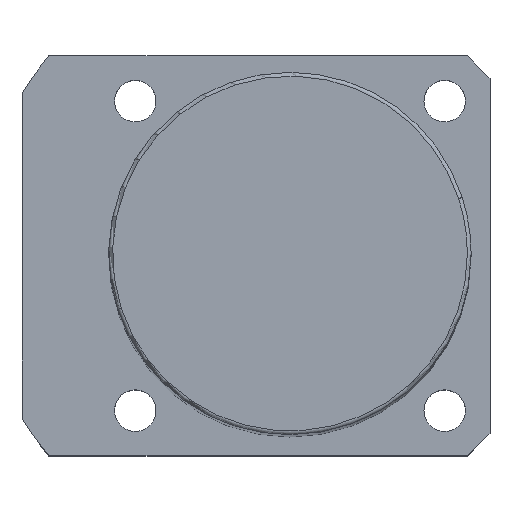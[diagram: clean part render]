
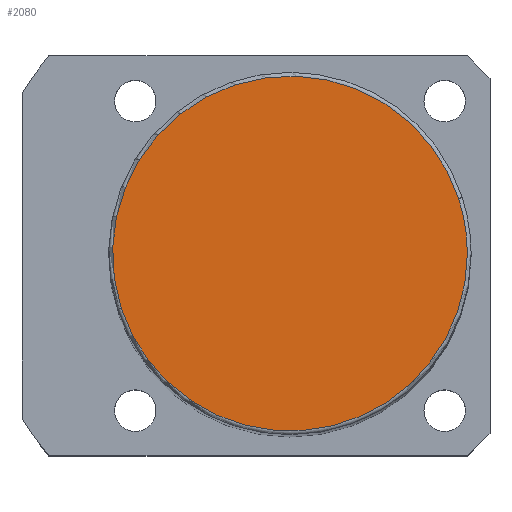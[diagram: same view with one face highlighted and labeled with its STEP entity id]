
A CAD part, top view. The second image highlights one B-rep face of the part: STEP entity #2080.
In plain terms, the highlighted planar face has unit normal (0, 0, 1).
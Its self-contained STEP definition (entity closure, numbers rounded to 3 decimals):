
#2046=CARTESIAN_POINT('',(23.5,0.0,189.0));
#2047=VERTEX_POINT('',#2046);
#2048=CARTESIAN_POINT('',(22.35,7.262,189.0));
#2049=VERTEX_POINT('',#2048);
#2050=CARTESIAN_POINT('',(0.0,0.0,189.0));
#2051=DIRECTION('',(0.0,0.0,1.0));
#2052=DIRECTION('',(1.0,0.0,0.0));
#2053=AXIS2_PLACEMENT_3D('',#2050,#2051,#2052);
#2054=CIRCLE('',#2053,23.5);
#2055=EDGE_CURVE('no 2094',#2047,#2049,#2054,.T.);
#2056=ORIENTED_EDGE('',*,*,#2055,.T.);
#2057=CARTESIAN_POINT('',(-22.35,-7.262,189.0));
#2058=VERTEX_POINT('',#2057);
#2059=CARTESIAN_POINT('',(0.0,0.0,189.0));
#2060=DIRECTION('',(0.0,0.0,1.0));
#2061=DIRECTION('',(1.0,0.0,0.0));
#2062=AXIS2_PLACEMENT_3D('',#2059,#2060,#2061);
#2063=CIRCLE('',#2062,23.5);
#2064=EDGE_CURVE('no 2100',#2049,#2058,#2063,.T.);
#2065=ORIENTED_EDGE('',*,*,#2064,.T.);
#2066=CARTESIAN_POINT('',(0.0,0.0,189.0));
#2067=DIRECTION('',(0.0,0.0,1.0));
#2068=DIRECTION('',(1.0,0.0,0.0));
#2069=AXIS2_PLACEMENT_3D('',#2066,#2067,#2068);
#2070=CIRCLE('',#2069,23.5);
#2071=EDGE_CURVE('no 2104',#2058,#2047,#2070,.T.);
#2072=ORIENTED_EDGE('',*,*,#2071,.T.);
#2073=EDGE_LOOP('',(#2056,#2065,#2072));
#2074=FACE_OUTER_BOUND('',#2073,.T.);
#2075=CARTESIAN_POINT('',(0.0,0.0,189.0));
#2076=DIRECTION('',(0.0,0.0,1.0));
#2077=DIRECTION('',(1.0,0.0,0.0));
#2078=AXIS2_PLACEMENT_3D('',#2075,#2076,#2077);
#2079=PLANE('',#2078);
#2080=ADVANCED_FACE('no 2085',(#2074),#2079,.T.);
